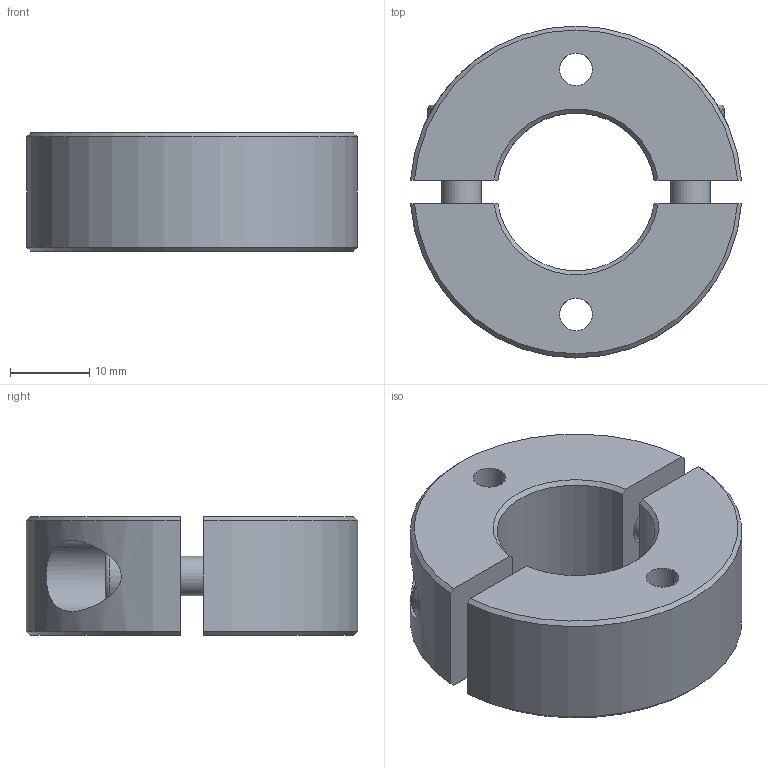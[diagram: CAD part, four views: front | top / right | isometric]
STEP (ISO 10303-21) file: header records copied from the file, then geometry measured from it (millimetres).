
FILE_DESCRIPTION( ( 'STEP AP203' ), '1' );
FILE_NAME( 'C:/Temp/Ganter_Step_05_03_2020/data/3_2/gn7072_2/Split Stainless Steel-Set collar GN 7072.2-42-B20-NI-C.stp', '2020-03-13T05:41:06', ( 'License CC BY-ND 4.0' ), ( 'CADENAS' ), ' ', 'PARTsolutions', ' ' );
FILE_SCHEMA( ( 'CONFIG_CONTROL_DESIGN' ) );
Length unit declared in the file: millimetre
Products named in the file (1): _Split Stainless Steel-Set collar GN 7072.2-42-B20-NI-C
Bounding box: 41.89 x 42 x 15 mm (x, y, z)
Volume: 14074.8 mm3; surface area: 6712.5 mm2
Topology: 1 solids, 1 shells, 52 faces, 123 edges, 83 vertices
Faces by surface type: plane 28, cylinder 14, cone 8, torus 2
Full cylindrical faces by diameter (mm): 4.134 x2, 5 x2, 5.4 x2, 8.5 x2, 9 x2
Entity records: 1624 total; most frequent: CARTESIAN_POINT 439, DIRECTION 230, ORIENTED_EDGE 212, EDGE_CURVE 106, AXIS2_PLACEMENT_3D 89, EDGE_LOOP 80, VERTEX_POINT 78, FACE_OUTER_BOUND 64
